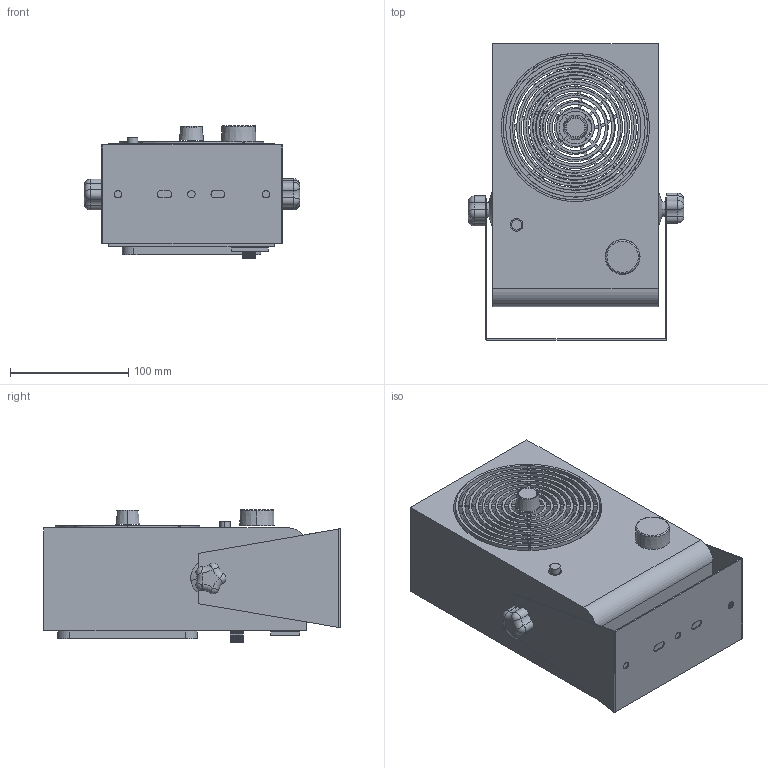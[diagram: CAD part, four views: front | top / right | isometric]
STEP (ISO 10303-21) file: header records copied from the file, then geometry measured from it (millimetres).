
FILE_DESCRIPTION (( 'STEP AP203' ), '1' );
FILE_NAME ('蝠霜薜赽瑞儂.STEP', '2024-08-28T06:02:42', ( '' ), ( '' ), 'SwSTEP 2.0', 'SolidWorks 2020', '' );
FILE_SCHEMA (( 'CONFIG_CONTROL_DESIGN' ));
Length unit declared in the file: millimetre
Products named in the file (3): 蝠霜薜赽瑞儂; 蝠霜薜赽瑞圮; 盓殤蹟譫
Assembly tree (3 placements, depth 2):
  蝠霜薜赽瑞儂
    蝠霜薜赽瑞圮
    盓殤蹟譫  x2
Bounding box: 181.9 x 250.3 x 112.3 mm (x, y, z)
Volume: 1819211 mm3; surface area: 265909.4 mm2
Topology: 18 solids, 18 shells, 746 faces, 2227 edges, 1458 vertices
Faces by surface type: cylinder 470, plane 236, torus 14, bspline 12, sphere 10, cone 4
Entity records: 25260 total; most frequent: CARTESIAN_POINT 6038, DIRECTION 4160, ORIENTED_EDGE 4032, EDGE_CURVE 2016, AXIS2_PLACEMENT_3D 1589, VERTEX_POINT 1329, VECTOR 982, LINE 982
